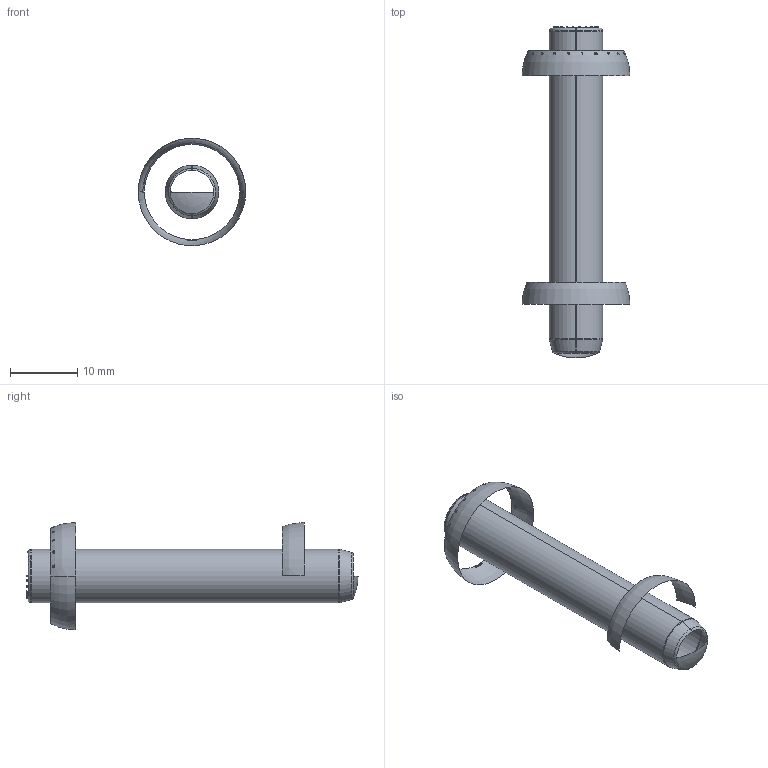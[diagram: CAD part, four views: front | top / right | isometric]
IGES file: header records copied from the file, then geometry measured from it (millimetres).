
Start section: SolidWorks IGES file using analytic representation for surfaces
Global section: file name: D:\Cleonir_arquivos\MT_15_07\Pinos Guia DIN 6325 ISO 8734 sem rosca\PG608050.igs; native system: SolidWorks 2013; preprocessor: SolidWorks 2013; author: Cleonir; date: 130718.161811; units: millimetre
Bounding box: 16 x 49.38 x 15.95 mm (x, y, z)
Surface area: 1512.6 mm2 (no closed solid volume)
Topology: 0 solids, 0 shells, 298 faces, 2147 edges, 2146 vertices
Faces by surface type: bspline 269, revolution 29
